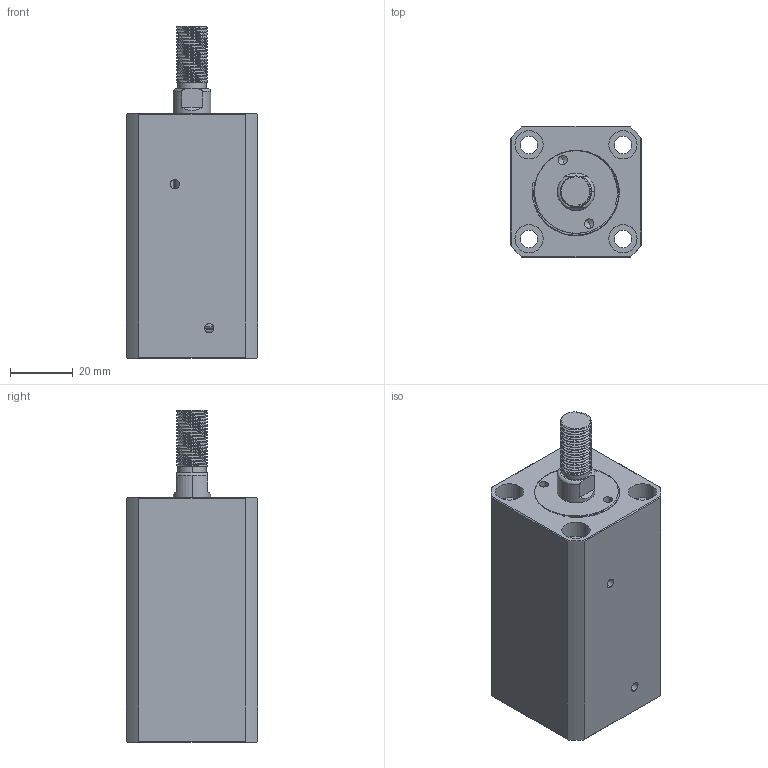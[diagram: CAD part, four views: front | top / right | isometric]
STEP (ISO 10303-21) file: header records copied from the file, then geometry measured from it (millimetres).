
FILE_DESCRIPTION (( 'STEP AP214' ), '1' );
FILE_NAME ('chtb-sdmb20x35w_asm.STEP', '2018-05-18T08:34:32', ( 'Windows' ), ( 'Microsoft' ), 'SwSTEP 2.0', 'SolidWorks 2015', '' );
FILE_SCHEMA (( 'AUTOMOTIVE_DESIGN' ));
Length unit declared in the file: millimetre
Products named in the file (4): QG_3; CHTB-SDMB20X35WHSG; CHTB-SDMB20X35NBT; chtb-sdmb20x35w_asm
Assembly tree (3 placements, depth 2):
  chtb-sdmb20x35w_asm
    CHTB-SDMB20X35NBT
    CHTB-SDMB20X35WHSG
    QG_3
Bounding box: 42 x 42 x 106 mm (x, y, z)
Volume: 119193.9 mm3; surface area: 36759.1 mm2
Topology: 3 solids, 3 shells, 243 faces, 660 edges, 439 vertices
Faces by surface type: cylinder 143, plane 47, torus 25, bspline 23, cone 5
Entity records: 14768 total; most frequent: CARTESIAN_POINT 8984, ORIENTED_EDGE 1312, DIRECTION 1058, EDGE_CURVE 656, VERTEX_POINT 439, AXIS2_PLACEMENT_3D 434, EDGE_LOOP 281, FACE_OUTER_BOUND 243
